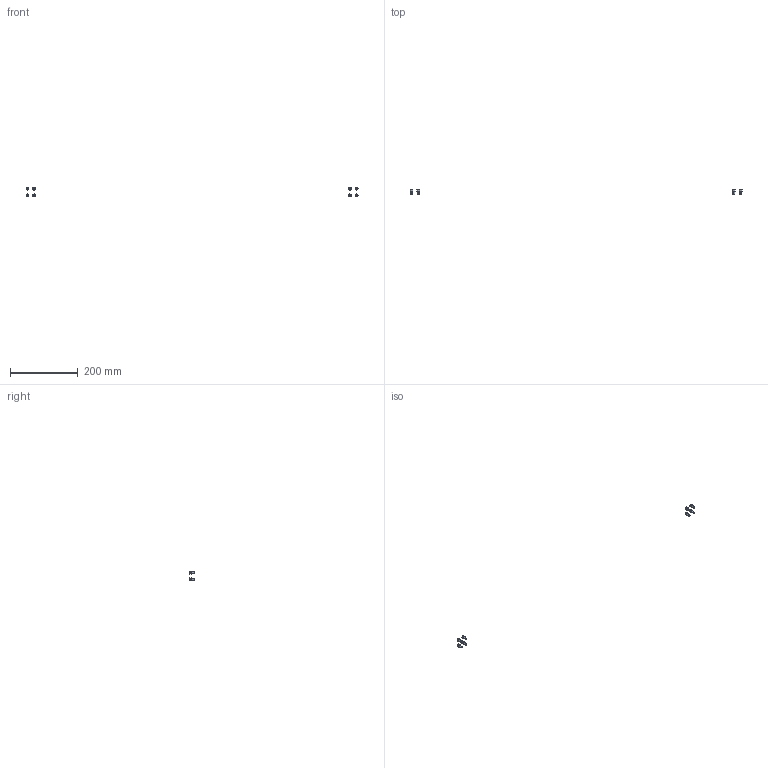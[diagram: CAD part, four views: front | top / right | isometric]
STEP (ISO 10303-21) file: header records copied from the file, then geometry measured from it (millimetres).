
FILE_DESCRIPTION(/* description */ (''),/* implementation_level */ '2;1');
FILE_NAME(/* name */ '10.optics-laser#10.4#CB5-10',/* time_stamp */ '2014-12-01T20:19:15+01:00',/* author */ (''),/* organization */ (''),/* preprocessor_version */ 'ST-DEVELOPER v14',/* originating_system */ '',/* authorisation */ '');
FILE_SCHEMA (('AUTOMOTIVE_DESIGN'));
Length unit declared in the file: millimetre
Products named in the file (2): Document; screw DIN912-like, M5x10
Assembly tree (8 placements, depth 2):
  Document
    screw DIN912-like, M5x10  x8
Bounding box: 978.5 x 15 x 28.5 mm (x, y, z)
Volume: 3506.7 mm3; surface area: 3410.4 mm2
Topology: 8 solids, 8 shells, 200 faces, 448 edges, 264 vertices
Faces by surface type: plane 120, bspline 80
Entity records: 1461 total; most frequent: CARTESIAN_POINT 639, B_SPLINE_CURVE_WITH_KNOTS 126, ORIENTED_EDGE 108, PCURVE 108, DEFINITIONAL_REPRESENTATION 108, SURFACE_CURVE 54, EDGE_CURVE 54, DIRECTION 37
